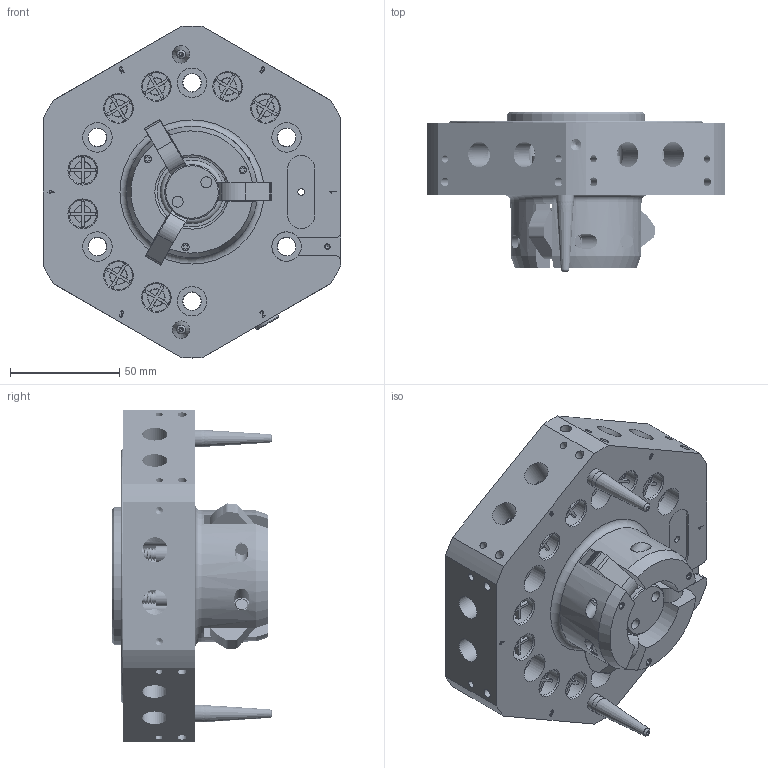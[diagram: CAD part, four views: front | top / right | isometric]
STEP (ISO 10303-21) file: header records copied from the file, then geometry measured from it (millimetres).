
FILE_DESCRIPTION (( 'STEP AP214' ), '1' );
FILE_NAME ('1506-D50A REV01.STEP', '2019-01-21T14:32:03', ( 'Any Employee' ), ( 'Applied Robotics Inc.' ), 'SwSTEP 2.0', 'SolidWorks 2019', '' );
FILE_SCHEMA (( 'AUTOMOTIVE_DESIGN' ));
Length unit declared in the file: millimetre
Products named in the file (31): 90511-P1030_Default<As Machined>; 97501-P1084; 1506-D51N; 0601-P58N; 97501-P1047; 1506-C54N; 1601-D27A; 96510-B1092; 1507-P01N; 89503-P1052; 87515-P2047; 97501-P1046; 1507-D21A; 1506-C52N; 91502-P1060; 86555-p1021; 1502-C61N; 1506-C57N; 48427; 48414; 48030; 95505-P1087; 48012; 1506-C55N; 1506-C53N; 49628_90967A120; 1506-D50A REV01; 97500-B1028; 1506-C58N; 48425; 48008
Assembly tree (96 placements, depth 3):
  1506-D50A REV01
    1601-D27A
      1506-D51N
      1506-C52N
      1506-C53N
      1506-C54N
      1502-C61N  x3
      97500-B1028  x3
      96510-B1092  x2
      48427  x5
      48425  x3
      89503-P1052  x9
      48030  x2
      90511-P1030_Default<As Machined>
      97501-P1046
      48012  x8
      0601-P58N
      91502-P1060
      49628_90967A120
    1507-D21A
      1506-C57N
      1506-C58N
      1507-P01N  x2
      48414  x2
      48012  x4
      48008  x2
      87515-P2047  x6
      95505-P1087  x6
      97501-P1084  x2
    1506-C55N  x8
    97501-P1047  x8
    86555-p1021  x8
Bounding box: 136 x 73.02 x 152 mm (x, y, z)
Volume: 493248.9 mm3; surface area: 172007.5 mm2
Topology: 94 solids, 94 shells, 2059 faces, 4794 edges, 3129 vertices
Faces by surface type: plane 1092, cylinder 476, bspline 207, cone 171, torus 113
Full cylindrical faces by diameter (mm): 0.98 x6, 1 x2, 1.15 x6, 1.17 x6, 1.37 x12, 1.5 x2, 1.68 x6, 1.75 x6, 1.81 x6, 1.96 x6, 2.05 x3, 2.4 x2, 2.5 x23, 2.75 x2, 3 x28, 3.05 x4, 3.3 x18, 3.5 x12, 4 x8, 4.062 x10, 4.2 x2, 4.5 x10, 5 x6, 5.105 x2, 5.25 x2, 5.33 x8, 5.5 x14, 6 x19, 6.022 x9, 6.35 x2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
Entity records: 52630 total; most frequent: CARTESIAN_POINT 24350, DIRECTION 4997, ORIENTED_EDGE 4974, EDGE_CURVE 2487, EDGE_LOOP 1937, AXIS2_PLACEMENT_3D 1857, VERTEX_POINT 1836, FACE_OUTER_BOUND 1513
